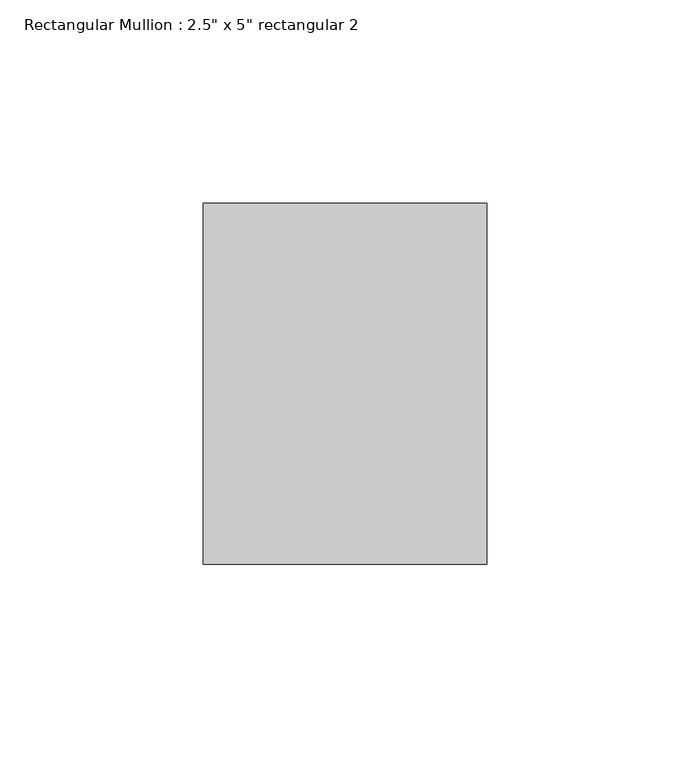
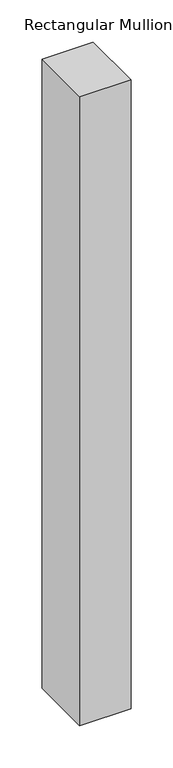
"""IFC4 building model written with IfcOpenShell, lengths in millimetres: member geometry."""

from ifc_helpers import new_model, si_unit, frame, origin, place, context, project, spatial, polyline, outline, extrude, source, transform, mapped, element, save


def member_f035e081(model_context):
    return source(origin(), model_context, "Body", "SweptSolid", [
        extrude(outline(polyline([(0.0, 44.45), (0.0, -44.45), (-69.85, -44.45), (-69.85, 44.45), (0.0, 44.45)])), frame((0.0, 0.0, -908.05), z_axis=(0.0, 0.0, 1.0), x_axis=(1.0, 0.0, 0.0)), (0.0, 0.0, 1.0), 908.05),
    ])


if __name__ == "__main__":
    model = new_model("IFC4")
    model_context = context("Model", 3, world=origin())
    ifc_project = project(units=[si_unit("LENGTHUNIT", "METRE", prefix="MILLI")], contexts=[model_context])
    site = spatial("IfcSite", under=ifc_project)
    building = spatial("IfcBuilding", under=site)
    placement = place(None, origin())
    member_shape = member_f035e081(model_context)
    element("IfcMember", 1, ObjectType="Rectangular Mullion : 2.5\" x 5\" rectangular 2", at=placement, inside=building, context=model_context, shape_type="MappedRepresentation", body=[
        mapped(member_shape, transform((0.0, 0.0, 0.0), x_axis=(1.0, 0.0, 0.0), y_axis=(0.0, 1.0, 0.0), z_axis=(0.0, 0.0, 1.0))),
    ])
    save(model, "model.ifc")
